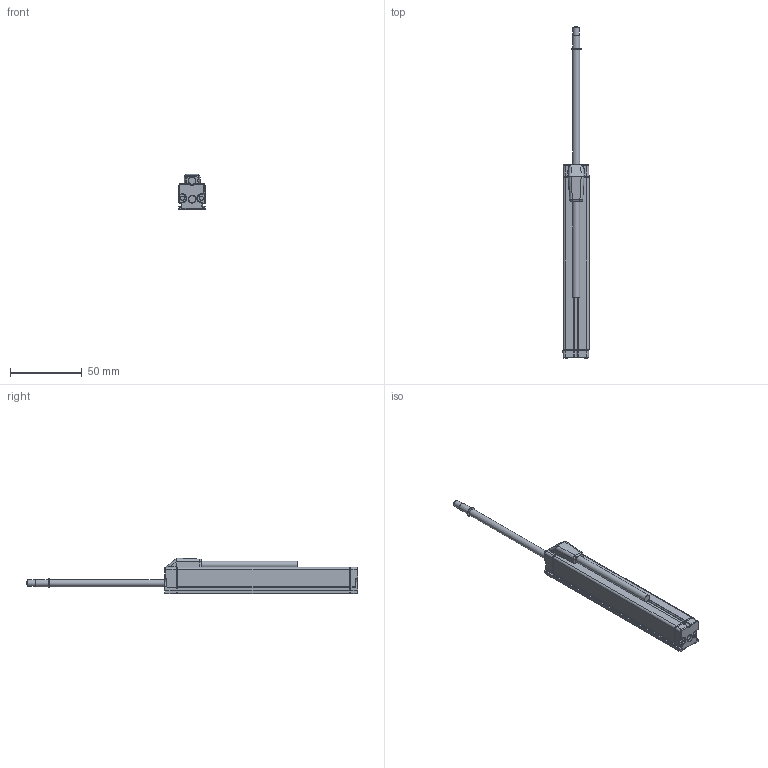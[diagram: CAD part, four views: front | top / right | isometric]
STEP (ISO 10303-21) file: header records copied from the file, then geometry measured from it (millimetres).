
FILE_DESCRIPTION(/* description */ (''),/* implementation_level */ '2;1');
FILE_NAME(/* name */ 'KTR3-75MM.stp',/* time_stamp */ '2020-06-24T14:32:09+08:00',/* author */ (''),/* organization */ (''),/* preprocessor_version */ 'ST-DEVELOPER v16',/* originating_system */ 'SIEMENS PLM Software NX 10.0',/* authorisation */ '');
FILE_SCHEMA (('CONFIG_CONTROL_DESIGN'));
Length unit declared in the file: millimetre
Products named in the file (1): KTR3-75MM
Bounding box: 18.2 x 232 x 24.8 mm (x, y, z)
Volume: 26813.1 mm3; surface area: 25942 mm2
Topology: 8 solids, 8 shells, 548 faces, 1492 edges, 951 vertices
Faces by surface type: plane 275, cylinder 182, bspline 42, cone 40, sphere 6, torus 3
Full cylindrical faces by diameter (mm): 2.5 x1, 3.2 x4, 4 x1, 4.5 x1, 5 x3, 5.5 x1
Entity records: 17999 total; most frequent: CARTESIAN_POINT 4237, ORIENTED_EDGE 2900, DIRECTION 2814, EDGE_CURVE 1450, AXIS2_PLACEMENT_3D 970, VERTEX_POINT 942, LINE 874, VECTOR 874
